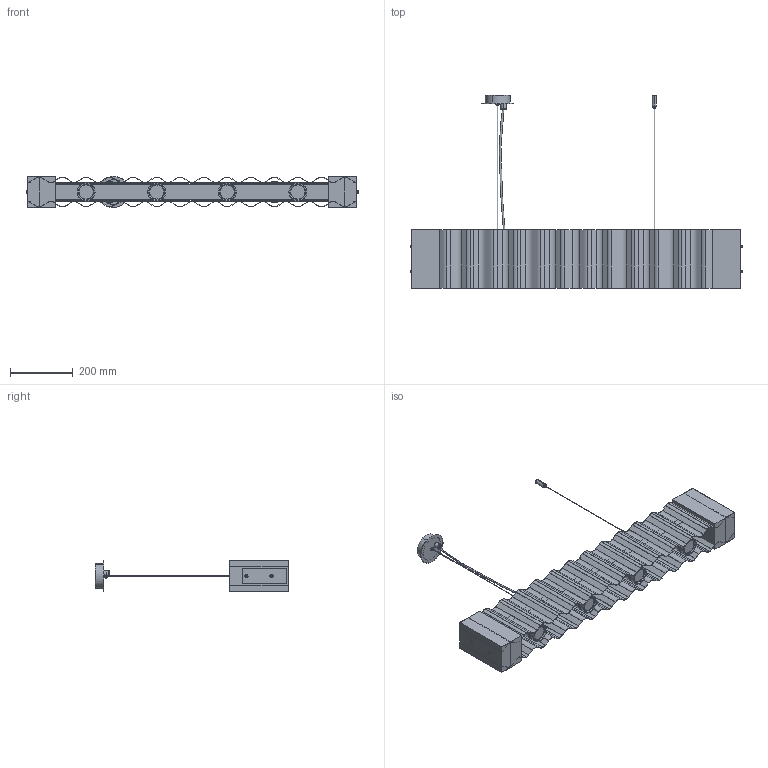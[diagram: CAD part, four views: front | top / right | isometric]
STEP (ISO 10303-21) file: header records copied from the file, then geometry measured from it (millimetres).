
FILE_DESCRIPTION (( 'STEP AP214' ), '1' );
FILE_NAME ('NOSA_C1330.STEP', '2024-09-18T09:34:41', ( '' ), ( '' ), 'SwSTEP 2.0', 'SolidWorks 2018', '' );
FILE_SCHEMA (( 'AUTOMOTIVE_DESIGN' ));
Length unit declared in the file: millimetre
Products named in the file (1): NOSA_C1330
Bounding box: 1058 x 616.92 x 100 mm (x, y, z)
Volume: 3010972.4 mm3; surface area: 1890777.4 mm2
Topology: 57 solids, 57 shells, 2158 faces, 5194 edges, 3210 vertices
Faces by surface type: cylinder 942, plane 756, torus 372, bspline 62, cone 26
Entity records: 120249 total; most frequent: CARTESIAN_POINT 47932, ORIENTED_EDGE 10388, DIRECTION 9746, EDGE_CURVE 5194, AXIS2_PLACEMENT_3D 3883, VERTEX_POINT 3210, EDGE_LOOP 2324, UNCERTAINTY_MEASURE_WITH_UNIT 2213
